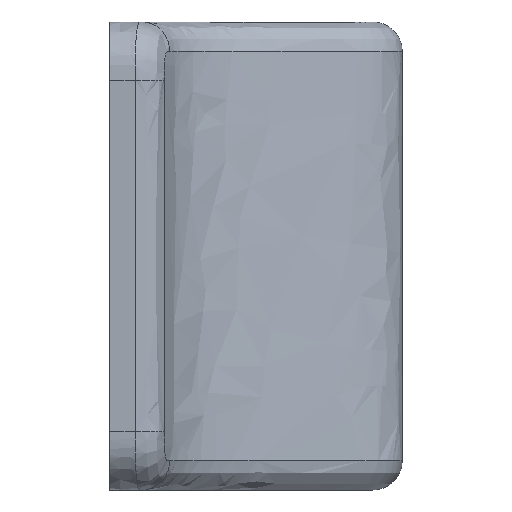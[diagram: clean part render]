
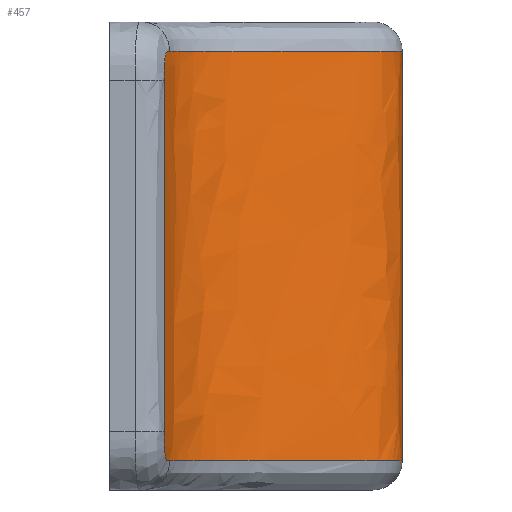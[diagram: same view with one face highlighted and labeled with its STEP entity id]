
A CAD part, left-side view. The second image highlights one B-rep face of the part: STEP entity #457.
In plain terms, the highlighted free-form (B-spline) face has degree [4, 1] with [5, 2] control points.
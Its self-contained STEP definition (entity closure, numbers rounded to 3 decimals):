
#19=(
BOUNDED_SURFACE()
B_SPLINE_SURFACE(4,1,((#1614,#1615),(#1616,#1617),(#1618,#1619),(#1620,
#1621),(#1622,#1623)),.UNSPECIFIED.,.F.,.F.,.F.)
B_SPLINE_SURFACE_WITH_KNOTS((5,5),(2,2),(-1.,0.),(0.,1.6),.UNSPECIFIED.)
GEOMETRIC_REPRESENTATION_ITEM()
RATIONAL_B_SPLINE_SURFACE(((1.,1.),(1.,1.),(1.,1.),(1.,1.),(1.,1.)))
REPRESENTATION_ITEM('')
SURFACE()
);
#54=LINE('',#1624,#76);
#76=VECTOR('',#545,10.);
#108=FACE_OUTER_BOUND('',#136,.T.);
#136=EDGE_LOOP('',(#352,#353,#354,#355,#356,#357));
#159=B_SPLINE_CURVE_WITH_KNOTS('',3,(#827,#828,#829,#830,#831,#832,#833,
#834,#835,#836,#837,#838,#839,#840),.UNSPECIFIED.,.F.,.F.,(4,1,1,1,1,1,
1,1,1,1,1,4),(-0.169,-0.145,-0.133,
-0.121,-0.109,-0.097,-0.073,
-0.061,-0.051,-0.048,-0.024,
0.),.UNSPECIFIED.);
#162=B_SPLINE_CURVE_WITH_KNOTS('',3,(#991,#992,#993,#994,#995,#996,#997,
#998,#999,#1000,#1001,#1002,#1003,#1004,#1005,#1006),.UNSPECIFIED.,.F.,
 .F.,(4,1,1,1,1,1,1,1,1,1,1,1,1,4),(-0.169,-0.145,
-0.121,-0.118,-0.115,-0.109,
-0.097,-0.073,-0.061,-0.054,
-0.051,-0.048,-0.024,0.),
 .UNSPECIFIED.);
#165=B_SPLINE_CURVE_WITH_KNOTS('',3,(#1051,#1052,#1053,#1054),
 .UNSPECIFIED.,.F.,.F.,(4,4),(-1.4,-0.2),.UNSPECIFIED.);
#170=B_SPLINE_CURVE_WITH_KNOTS('',3,(#1292,#1293,#1294,#1295,#1296,#1297,
#1298,#1299,#1300,#1301,#1302,#1303,#1304,#1305),.UNSPECIFIED.,.F.,.F.,
(4,1,1,1,1,1,1,1,1,1,1,4),(0.,0.02,0.039,0.078,
0.117,0.157,0.235,0.313,
0.47,0.783,0.939,1.096),
 .UNSPECIFIED.);
#174=B_SPLINE_CURVE_WITH_KNOTS('',3,(#1458,#1459,#1460,#1461,#1462,#1463,
#1464,#1465,#1466,#1467,#1468,#1469,#1470,#1471,#1472),.UNSPECIFIED.,.F.,
 .F.,(4,1,1,1,1,1,1,1,1,1,1,1,4),(0.203,0.36,0.516,
0.829,0.907,0.986,1.142,
1.181,1.221,1.24,1.26,1.279,
1.299),.UNSPECIFIED.);
#193=VERTEX_POINT('',#824);
#194=VERTEX_POINT('',#826);
#198=VERTEX_POINT('',#989);
#199=VERTEX_POINT('',#990);
#205=VERTEX_POINT('',#1158);
#211=VERTEX_POINT('',#1456);
#236=EDGE_CURVE('',#194,#193,#159,.T.);
#242=EDGE_CURVE('',#198,#199,#162,.T.);
#247=EDGE_CURVE('',#199,#194,#165,.T.);
#255=EDGE_CURVE('',#205,#198,#170,.T.);
#262=EDGE_CURVE('',#193,#211,#174,.T.);
#271=EDGE_CURVE('',#211,#205,#54,.T.);
#352=ORIENTED_EDGE('',*,*,#262,.T.);
#353=ORIENTED_EDGE('',*,*,#271,.T.);
#354=ORIENTED_EDGE('',*,*,#255,.T.);
#355=ORIENTED_EDGE('',*,*,#242,.T.);
#356=ORIENTED_EDGE('',*,*,#247,.T.);
#357=ORIENTED_EDGE('',*,*,#236,.T.);
#457=ADVANCED_FACE('',(#108),#19,.F.);
#545=DIRECTION('',(0.,0.,1.));
#824=CARTESIAN_POINT('',(127.698,-77.449,-79.));
#826=CARTESIAN_POINT('',(126.859,-77.259,-78.));
#827=CARTESIAN_POINT('Ctrl Pts',(126.859,-77.259,-78.));
#828=CARTESIAN_POINT('Ctrl Pts',(126.859,-77.259,-78.081));
#829=CARTESIAN_POINT('Ctrl Pts',(126.858,-77.259,-78.202));
#830=CARTESIAN_POINT('Ctrl Pts',(126.869,-77.261,-78.363));
#831=CARTESIAN_POINT('Ctrl Pts',(126.89,-77.264,-78.481));
#832=CARTESIAN_POINT('Ctrl Pts',(126.93,-77.27,-78.594));
#833=CARTESIAN_POINT('Ctrl Pts',(127.005,-77.282,-78.728));
#834=CARTESIAN_POINT('Ctrl Pts',(127.102,-77.299,-78.841));
#835=CARTESIAN_POINT('Ctrl Pts',(127.21,-77.321,-78.92));
#836=CARTESIAN_POINT('Ctrl Pts',(127.271,-77.334,-78.95));
#837=CARTESIAN_POINT('Ctrl Pts',(127.366,-77.356,-78.984));
#838=CARTESIAN_POINT('Ctrl Pts',(127.506,-77.391,-79.001));
#839=CARTESIAN_POINT('Ctrl Pts',(127.634,-77.429,-79.));
#840=CARTESIAN_POINT('Ctrl Pts',(127.698,-77.449,-79.));
#989=CARTESIAN_POINT('',(127.698,-77.449,-65.));
#990=CARTESIAN_POINT('',(126.859,-77.259,-66.));
#991=CARTESIAN_POINT('Ctrl Pts',(127.698,-77.449,-65.));
#992=CARTESIAN_POINT('Ctrl Pts',(127.634,-77.429,-65.));
#993=CARTESIAN_POINT('Ctrl Pts',(127.505,-77.391,-64.999));
#994=CARTESIAN_POINT('Ctrl Pts',(127.366,-77.356,-65.016));
#995=CARTESIAN_POINT('Ctrl Pts',(127.287,-77.338,-65.044));
#996=CARTESIAN_POINT('Ctrl Pts',(127.255,-77.331,-65.058));
#997=CARTESIAN_POINT('Ctrl Pts',(127.202,-77.319,-65.086));
#998=CARTESIAN_POINT('Ctrl Pts',(127.102,-77.299,-65.159));
#999=CARTESIAN_POINT('Ctrl Pts',(127.005,-77.282,-65.272));
#1000=CARTESIAN_POINT('Ctrl Pts',(126.939,-77.271,-65.39));
#1001=CARTESIAN_POINT('Ctrl Pts',(126.913,-77.267,-65.454));
#1002=CARTESIAN_POINT('Ctrl Pts',(126.901,-77.265,-65.491));
#1003=CARTESIAN_POINT('Ctrl Pts',(126.874,-77.261,-65.587));
#1004=CARTESIAN_POINT('Ctrl Pts',(126.858,-77.259,-65.759));
#1005=CARTESIAN_POINT('Ctrl Pts',(126.859,-77.259,-65.919));
#1006=CARTESIAN_POINT('Ctrl Pts',(126.859,-77.259,-66.));
#1051=CARTESIAN_POINT('Ctrl Pts',(126.859,-77.259,-66.));
#1052=CARTESIAN_POINT('Ctrl Pts',(126.859,-77.259,-70.));
#1053=CARTESIAN_POINT('Ctrl Pts',(126.859,-77.259,-74.));
#1054=CARTESIAN_POINT('Ctrl Pts',(126.859,-77.259,-78.));
#1158=CARTESIAN_POINT('',(135.,-85.4,-65.));
#1292=CARTESIAN_POINT('Ctrl Pts',(135.,-85.4,-65.));
#1293=CARTESIAN_POINT('Ctrl Pts',(134.888,-85.4,-65.));
#1294=CARTESIAN_POINT('Ctrl Pts',(134.652,-85.386,-65.));
#1295=CARTESIAN_POINT('Ctrl Pts',(134.123,-85.248,-65.));
#1296=CARTESIAN_POINT('Ctrl Pts',(133.604,-84.904,-65.));
#1297=CARTESIAN_POINT('Ctrl Pts',(133.229,-84.497,-65.));
#1298=CARTESIAN_POINT('Ctrl Pts',(132.841,-83.969,-65.));
#1299=CARTESIAN_POINT('Ctrl Pts',(132.484,-83.336,-65.));
#1300=CARTESIAN_POINT('Ctrl Pts',(131.999,-82.36,-65.));
#1301=CARTESIAN_POINT('Ctrl Pts',(131.244,-80.74,-65.));
#1302=CARTESIAN_POINT('Ctrl Pts',(130.243,-79.1,-65.));
#1303=CARTESIAN_POINT('Ctrl Pts',(128.895,-77.951,-65.));
#1304=CARTESIAN_POINT('Ctrl Pts',(128.111,-77.581,-65.));
#1305=CARTESIAN_POINT('Ctrl Pts',(127.698,-77.449,-65.));
#1456=CARTESIAN_POINT('',(135.,-85.4,-79.));
#1458=CARTESIAN_POINT('Ctrl Pts',(127.698,-77.449,-79.));
#1459=CARTESIAN_POINT('Ctrl Pts',(128.111,-77.581,-79.));
#1460=CARTESIAN_POINT('Ctrl Pts',(128.895,-77.95,-79.));
#1461=CARTESIAN_POINT('Ctrl Pts',(130.244,-79.101,-79.));
#1462=CARTESIAN_POINT('Ctrl Pts',(131.12,-80.535,-79.));
#1463=CARTESIAN_POINT('Ctrl Pts',(131.782,-81.897,-79.));
#1464=CARTESIAN_POINT('Ctrl Pts',(132.239,-82.84,-79.));
#1465=CARTESIAN_POINT('Ctrl Pts',(132.654,-83.706,-79.));
#1466=CARTESIAN_POINT('Ctrl Pts',(133.224,-84.496,-79.));
#1467=CARTESIAN_POINT('Ctrl Pts',(133.545,-84.838,-79.));
#1468=CARTESIAN_POINT('Ctrl Pts',(133.908,-85.108,-79.));
#1469=CARTESIAN_POINT('Ctrl Pts',(134.258,-85.284,-79.));
#1470=CARTESIAN_POINT('Ctrl Pts',(134.649,-85.385,-79.));
#1471=CARTESIAN_POINT('Ctrl Pts',(134.888,-85.4,-79.));
#1472=CARTESIAN_POINT('Ctrl Pts',(135.,-85.4,-79.));
#1614=CARTESIAN_POINT('Ctrl Pts',(135.,-85.4,-80.));
#1615=CARTESIAN_POINT('Ctrl Pts',(135.,-85.4,-64.));
#1616=CARTESIAN_POINT('Ctrl Pts',(132.,-85.4,-80.));
#1617=CARTESIAN_POINT('Ctrl Pts',(132.,-85.4,-64.));
#1618=CARTESIAN_POINT('Ctrl Pts',(132.,-80.4,-80.));
#1619=CARTESIAN_POINT('Ctrl Pts',(132.,-80.4,-64.));
#1620=CARTESIAN_POINT('Ctrl Pts',(130.,-77.2,-80.));
#1621=CARTESIAN_POINT('Ctrl Pts',(130.,-77.2,-64.));
#1622=CARTESIAN_POINT('Ctrl Pts',(126.,-77.2,-80.));
#1623=CARTESIAN_POINT('Ctrl Pts',(126.,-77.2,-64.));
#1624=CARTESIAN_POINT('',(135.,-85.4,-80.));
